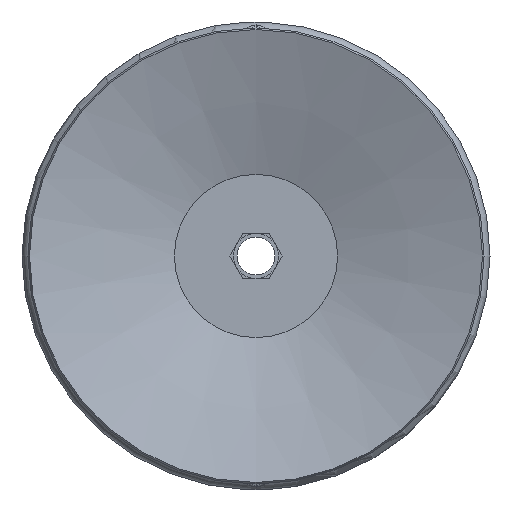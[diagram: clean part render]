
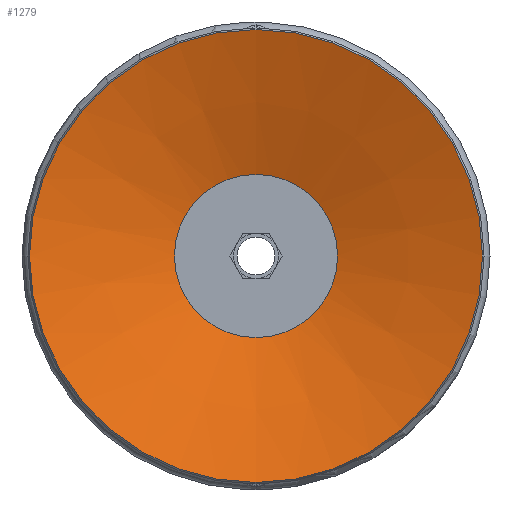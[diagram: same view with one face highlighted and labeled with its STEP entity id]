
A CAD part, front view. The second image highlights one B-rep face of the part: STEP entity #1279.
In plain terms, the highlighted conical face has half-angle 71.075 degrees and reference radius 15 mm.
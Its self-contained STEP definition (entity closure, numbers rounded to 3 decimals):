
#1279=ADVANCED_FACE('',(#3131,#3132),#3133,.F.);
#3131=FACE_BOUND('',#5837,.T.);
#3132=FACE_OUTER_BOUND('',#5838,.T.);
#3133=CONICAL_SURFACE('',#5839,15.0,1.24);
#5837=EDGE_LOOP('',(#9471));
#5838=EDGE_LOOP('',(#9472));
#5839=AXIS2_PLACEMENT_3D('',#9473,#9474,#9475);
#9471=ORIENTED_EDGE('',*,*,#16331,.T.);
#9472=ORIENTED_EDGE('',*,*,#16332,.T.);
#9473=CARTESIAN_POINT('',(0.,0.,0.0));
#9474=DIRECTION('',(0.0,0.,-1.0));
#9475=DIRECTION('',(0.0,1.0,0.));
#16331=EDGE_CURVE('',#20055,#20055,#20056,.T.);
#16332=EDGE_CURVE('',#20057,#20057,#20058,.T.);
#20055=VERTEX_POINT('',#26650);
#20056=CIRCLE('',#26651,5.4);
#20057=VERTEX_POINT('',#26652);
#20058=CIRCLE('',#26653,15.0);
#26650=CARTESIAN_POINT('',(-5.4,0.,3.291));
#26651=AXIS2_PLACEMENT_3D('',#32115,#32116,#32117);
#26652=CARTESIAN_POINT('',(0.,15.0,0.));
#26653=AXIS2_PLACEMENT_3D('',#32118,#32119,#32120);
#32115=CARTESIAN_POINT('',(0.,0.,3.291));
#32116=DIRECTION('',(0.,0.0,1.0));
#32117=DIRECTION('',(-1.0,0.0,0.));
#32118=CARTESIAN_POINT('',(0.,0.,0.0));
#32119=DIRECTION('',(0.0,0.,-1.0));
#32120=DIRECTION('',(0.0,1.0,0.));
